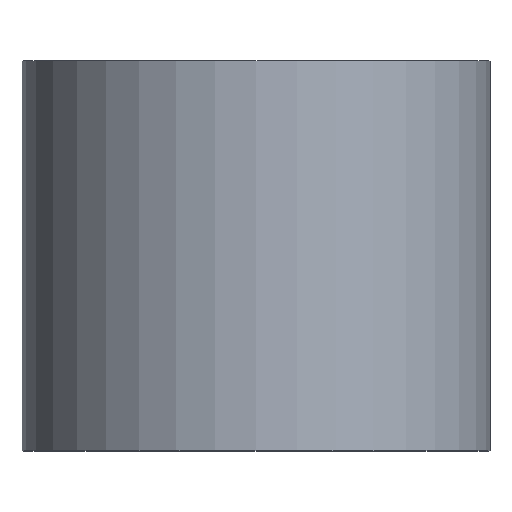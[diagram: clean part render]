
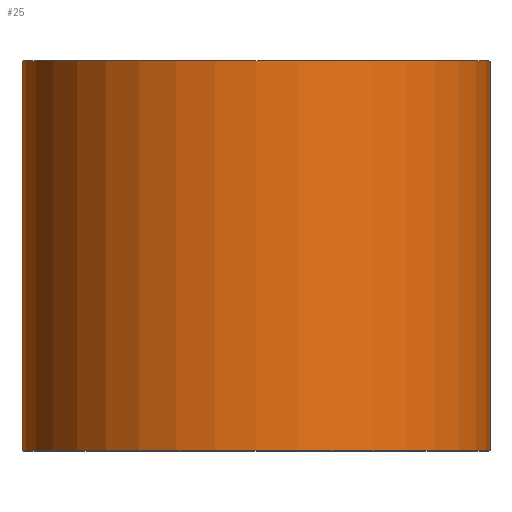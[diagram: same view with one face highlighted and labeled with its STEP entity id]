
A CAD part, top view. The second image highlights one B-rep face of the part: STEP entity #25.
In plain terms, the highlighted cylindrical face has radius 6 mm (diameter 12 mm), a partial arc.
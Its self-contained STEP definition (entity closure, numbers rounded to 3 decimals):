
#9 = CARTESIAN_POINT ( 'NONE',  ( -6., 0., 0. ) ) ;
#19 = FACE_OUTER_BOUND ( 'NONE', #216, .T. ) ;
#25 = ADVANCED_FACE ( 'NONE', ( #19 ), #131, .T. ) ;
#26 = AXIS2_PLACEMENT_3D ( 'NONE', #52, #193, #53 ) ;
#29 = AXIS2_PLACEMENT_3D ( 'NONE', #290, #203, #249 ) ;
#38 = VERTEX_POINT ( 'NONE', #98 ) ;
#40 = CARTESIAN_POINT ( 'NONE',  ( 6., 10., 0. ) ) ;
#51 = VERTEX_POINT ( 'NONE', #221 ) ;
#52 = CARTESIAN_POINT ( 'NONE',  ( 0., 0., 0. ) ) ;
#53 = DIRECTION ( 'NONE',  ( -1., 0., 0. ) ) ;
#54 = DIRECTION ( 'NONE',  ( -1., 0., 0. ) ) ;
#61 = CARTESIAN_POINT ( 'NONE',  ( 6., 0., 0. ) ) ;
#73 = VECTOR ( 'NONE', #164, 1000. ) ;
#75 = DIRECTION ( 'NONE',  ( 0., 1., 0. ) ) ;
#90 = EDGE_CURVE ( 'NONE', #209, #38, #232, .T. ) ;
#91 = ORIENTED_EDGE ( 'NONE', *, *, #291, .F. ) ;
#97 = CARTESIAN_POINT ( 'NONE',  ( 0., 0., 0. ) ) ;
#98 = CARTESIAN_POINT ( 'NONE',  ( 6., 0., 0. ) ) ;
#114 = EDGE_CURVE ( 'NONE', #209, #51, #183, .T. ) ;
#131 = CYLINDRICAL_SURFACE ( 'NONE', #26, 6. ) ;
#135 = EDGE_CURVE ( 'NONE', #38, #276, #295, .T. ) ;
#154 = ORIENTED_EDGE ( 'NONE', *, *, #135, .T. ) ;
#164 = DIRECTION ( 'NONE',  ( 0., 1., 0. ) ) ;
#170 = VECTOR ( 'NONE', #75, 1000. ) ;
#178 = CIRCLE ( 'NONE', #29, 6. ) ;
#180 = AXIS2_PLACEMENT_3D ( 'NONE', #97, #260, #54 ) ;
#183 = LINE ( 'NONE', #238, #73 ) ;
#193 = DIRECTION ( 'NONE',  ( 0., 1., 0. ) ) ;
#196 = ORIENTED_EDGE ( 'NONE', *, *, #90, .T. ) ;
#203 = DIRECTION ( 'NONE',  ( 0., 1., 0. ) ) ;
#209 = VERTEX_POINT ( 'NONE', #9 ) ;
#214 = ORIENTED_EDGE ( 'NONE', *, *, #114, .F. ) ;
#216 = EDGE_LOOP ( 'NONE', ( #196, #154, #91, #214 ) ) ;
#221 = CARTESIAN_POINT ( 'NONE',  ( -6., 10., 0. ) ) ;
#232 = CIRCLE ( 'NONE', #180, 6. ) ;
#238 = CARTESIAN_POINT ( 'NONE',  ( -6., 0., 0. ) ) ;
#249 = DIRECTION ( 'NONE',  ( -1., 0., 0. ) ) ;
#260 = DIRECTION ( 'NONE',  ( 0., 1., 0. ) ) ;
#276 = VERTEX_POINT ( 'NONE', #40 ) ;
#290 = CARTESIAN_POINT ( 'NONE',  ( 0., 10., 0. ) ) ;
#291 = EDGE_CURVE ( 'NONE', #51, #276, #178, .T. ) ;
#295 = LINE ( 'NONE', #61, #170 ) ;
